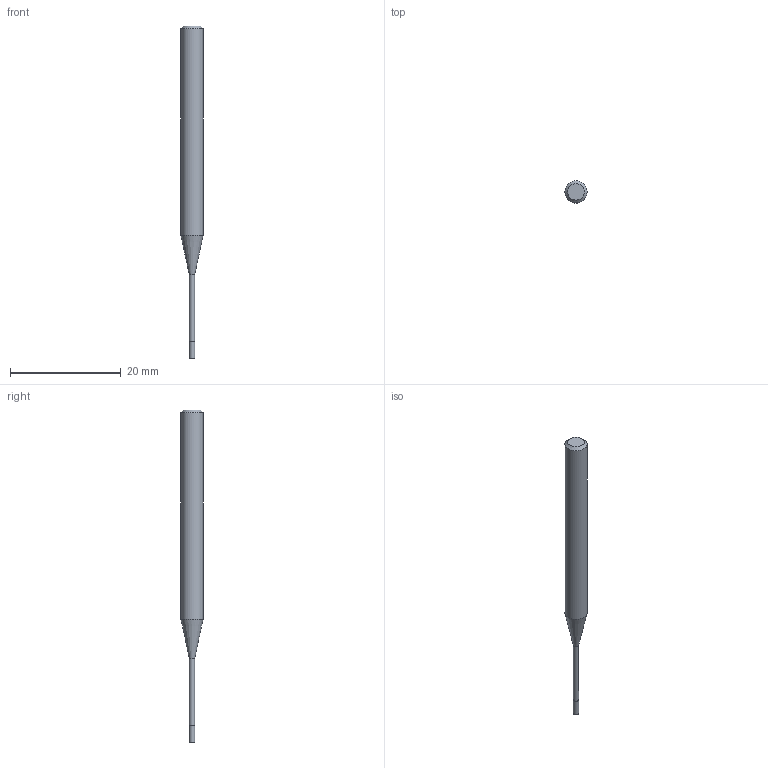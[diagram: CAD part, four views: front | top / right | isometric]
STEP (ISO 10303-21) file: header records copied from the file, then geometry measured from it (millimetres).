
FILE_DESCRIPTION((''),'2;1');
FILE_NAME('C:\Users\nsx150\Desktop\RSE230_20210427\01-00644-01015 RSE230 D1X3X15.step','2021-05-07T14:53:18',(''),(''),'STEP Write','Mastercam 2021 ... CNC Software, Inc.','');
FILE_SCHEMA(('AUTOMOTIVE_DESIGN'));
Length unit declared in the file: millimetre
Products named in the file (1): None
Bounding box: 4 x 4 x 60 mm (x, y, z)
Volume: 523.6 mm3; surface area: 588.4 mm2
Topology: 2 solids, 2 shells, 9 faces, 12 edges, 7 vertices
Faces by surface type: plane 4, cylinder 3, cone 2
Full cylindrical faces by diameter (mm): 0.95 x1, 1 x1, 4 x1
Entity records: 211 total; most frequent: DIRECTION 36, CARTESIAN_POINT 25, AXIS2_PLACEMENT_3D 18, ORIENTED_EDGE 14, EDGE_LOOP 14, STYLED_ITEM 12, ADVANCED_FACE 9, FACE_BOUND 8
